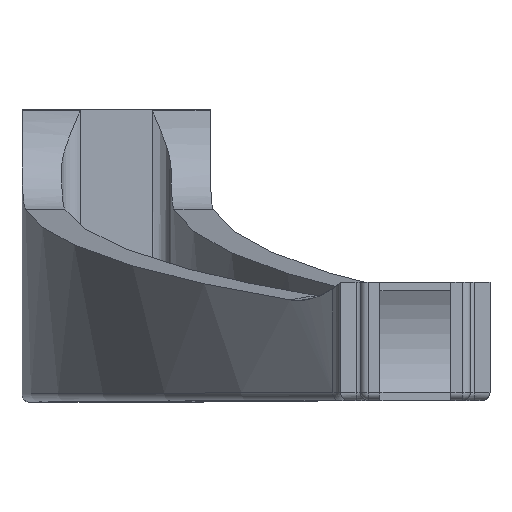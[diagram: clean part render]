
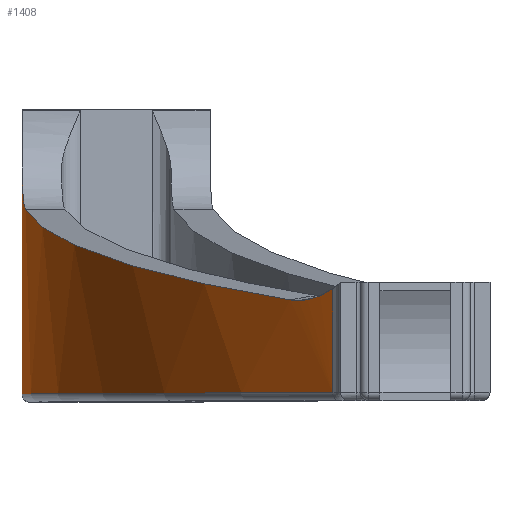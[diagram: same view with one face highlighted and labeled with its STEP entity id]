
A CAD part, top view. The second image highlights one B-rep face of the part: STEP entity #1408.
In plain terms, the highlighted cylindrical face has radius 132.732 mm (diameter 265.464 mm), a partial arc.
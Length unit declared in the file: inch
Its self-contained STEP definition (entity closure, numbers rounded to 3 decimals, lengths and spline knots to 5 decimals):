
#5 = EDGE_CURVE ( 'NONE', #2507, #773, #3169, .T. ) ;
#88 = ORIENTED_EDGE ( 'NONE', *, *, #4184, .T. ) ;
#100 = LINE ( 'NONE', #626, #320 ) ;
#113 = ORIENTED_EDGE ( 'NONE', *, *, #577, .T. ) ;
#313 = ORIENTED_EDGE ( 'NONE', *, *, #5, .T. ) ;
#319 = CARTESIAN_POINT ( 'NONE',  ( -0.46893, 1.08872, 0.28084 ) ) ;
#320 = VECTOR ( 'NONE', #1363, 39.37008 ) ;
#440 = CARTESIAN_POINT ( 'NONE',  ( 1.08534, 0.56, 3.83926 ) ) ;
#577 = EDGE_CURVE ( 'NONE', #939, #2507, #3897, .T. ) ;
#626 = CARTESIAN_POINT ( 'NONE',  ( 1.08534, 0.47244, 3.83926 ) ) ;
#636 = CARTESIAN_POINT ( 'NONE',  ( 4.75421, 0.03937, 0.11811 ) ) ;
#737 = CARTESIAN_POINT ( 'NONE',  ( -0.46858, 1.07892, 0.29191 ) ) ;
#773 = VERTEX_POINT ( 'NONE', #2025 ) ;
#835 = AXIS2_PLACEMENT_3D ( 'NONE', #1667, #4582, #933 ) ;
#914 = B_SPLINE_CURVE_WITH_KNOTS ( 'NONE', 3,
 ( #2790, #1001, #3191, #3941, #2810, #2594, #4436, #2578 ),
 .UNSPECIFIED., .F., .F.,
 ( 4, 2, 2, 4 ),
 ( 0.0016, 0.00361, 0.00562, 0.00965 ),
 .UNSPECIFIED. ) ;
#933 = DIRECTION ( 'NONE',  ( 0., 0., -1. ) ) ;
#939 = VERTEX_POINT ( 'NONE', #3833 ) ;
#947 = CARTESIAN_POINT ( 'NONE',  ( -0.4644, 1.01299, 0.38993 ) ) ;
#990 = CARTESIAN_POINT ( 'NONE',  ( -0.46129, 0.98913, 0.44419 ) ) ;
#1001 = CARTESIAN_POINT ( 'NONE',  ( 1.06844, 0.54839, 3.8226 ) ) ;
#1009 = CARTESIAN_POINT ( 'NONE',  ( 0.09851, 0.63279, 2.75794 ) ) ;
#1019 = EDGE_CURVE ( 'NONE', #4273, #939, #4474, .T. ) ;
#1024 = CARTESIAN_POINT ( 'NONE',  ( 0.87256, 0.50444, 3.61673 ) ) ;
#1035 = CARTESIAN_POINT ( 'NONE',  ( -0.4705, 1.15409, 0.22007 ) ) ;
#1038 = CARTESIAN_POINT ( 'NONE',  ( -0.35978, 0.79142, 1.6965 ) ) ;
#1101 = CARTESIAN_POINT ( 'NONE',  ( -0.47146, 1.42822, 0.11811 ) ) ;
#1363 = DIRECTION ( 'NONE',  ( 0., 1., 0. ) ) ;
#1401 = CARTESIAN_POINT ( 'NONE',  ( -0.47079, 1.17808, 0.20286 ) ) ;
#1408 = ADVANCED_FACE ( 'NONE', ( #2278 ), #3141, .T. ) ;
#1525 = EDGE_CURVE ( 'NONE', #3564, #4273, #1992, .T. ) ;
#1661 = CARTESIAN_POINT ( 'NONE',  ( -0.46634, 1.03456, 0.35078 ) ) ;
#1667 = CARTESIAN_POINT ( 'NONE',  ( 4.75421, 0.47244, 0.11811 ) ) ;
#1728 = CARTESIAN_POINT ( 'NONE',  ( -0.45406, 0.96363, 0.54421 ) ) ;
#1788 = DIRECTION ( 'NONE',  ( 0., -1., 0. ) ) ;
#1818 = CARTESIAN_POINT ( 'NONE',  ( -0.47117, 1.22926, 0.17332 ) ) ;
#1992 =( BOUNDED_CURVE ( )  B_SPLINE_CURVE ( 3, ( #1024, #1009, #1038, #2900 ),
 .UNSPECIFIED., .F., .F. ) 
 B_SPLINE_CURVE_WITH_KNOTS ( ( 4, 4 ),
 ( 0.83725, 1.48917 ),
 .UNSPECIFIED. ) 
 CURVE ( )  GEOMETRIC_REPRESENTATION_ITEM ( )  RATIONAL_B_SPLINE_CURVE ( ( 1., 0.965, 0.965, 1. ) ) 
 REPRESENTATION_ITEM ( '' )  );
#2024 = CARTESIAN_POINT ( 'NONE',  ( -0.46213, 0.99446, 0.43044 ) ) ;
#2025 = CARTESIAN_POINT ( 'NONE',  ( 1.08534, 0.03937, 3.83926 ) ) ;
#2278 = FACE_OUTER_BOUND ( 'NONE', #4382, .T. ) ;
#2340 = EDGE_CURVE ( 'NONE', #3853, #3564, #914, .T. ) ;
#2507 = VERTEX_POINT ( 'NONE', #4231 ) ;
#2578 = CARTESIAN_POINT ( 'NONE',  ( 0.87256, 0.50444, 3.61673 ) ) ;
#2594 = CARTESIAN_POINT ( 'NONE',  ( 0.94386, 0.5006, 3.69464 ) ) ;
#2614 = CARTESIAN_POINT ( 'NONE',  ( -0.47129, 1.25613, 0.16049 ) ) ;
#2790 = CARTESIAN_POINT ( 'NONE',  ( 1.08534, 0.56, 3.83926 ) ) ;
#2810 = CARTESIAN_POINT ( 'NONE',  ( 0.99774, 0.51484, 3.75091 ) ) ;
#2880 = CARTESIAN_POINT ( 'NONE',  ( -0.46955, 1.10938, 0.25952 ) ) ;
#2900 = CARTESIAN_POINT ( 'NONE',  ( -0.45406, 0.96363, 0.54421 ) ) ;
#2947 = CARTESIAN_POINT ( 'NONE',  ( -0.47142, 1.31168, 0.13912 ) ) ;
#2965 = AXIS2_PLACEMENT_3D ( 'NONE', #636, #4653, #3953 ) ;
#3141 = CYLINDRICAL_SURFACE ( 'NONE', #835, 5.22566 ) ;
#3145 = CARTESIAN_POINT ( 'NONE',  ( -0.45856, 0.975, 0.48603 ) ) ;
#3162 = CARTESIAN_POINT ( 'NONE',  ( -0.45406, 0.96363, 0.54421 ) ) ;
#3169 = CIRCLE ( 'NONE', #2965, 5.22566 ) ;
#3191 = CARTESIAN_POINT ( 'NONE',  ( 1.05117, 0.53832, 3.80535 ) ) ;
#3243 = CARTESIAN_POINT ( 'NONE',  ( -0.46982, 1.1203, 0.24921 ) ) ;
#3269 = ORIENTED_EDGE ( 'NONE', *, *, #1019, .T. ) ;
#3311 = CARTESIAN_POINT ( 'NONE',  ( -0.47146, 1.39832, 0.12082 ) ) ;
#3564 = VERTEX_POINT ( 'NONE', #4599 ) ;
#3662 = VECTOR ( 'NONE', #1788, 39.37008 ) ;
#3672 = CARTESIAN_POINT ( 'NONE',  ( -0.47146, 1.45814, 0.11811 ) ) ;
#3681 = CARTESIAN_POINT ( 'NONE',  ( -0.47146, 0.47244, 0.11811 ) ) ;
#3833 = CARTESIAN_POINT ( 'NONE',  ( -0.47146, 1.45814, 0.11811 ) ) ;
#3853 = VERTEX_POINT ( 'NONE', #440 ) ;
#3897 = LINE ( 'NONE', #3681, #3662 ) ;
#3941 = CARTESIAN_POINT ( 'NONE',  ( 1.01587, 0.52154, 3.76955 ) ) ;
#3953 = DIRECTION ( 'NONE',  ( 0., 0., -1. ) ) ;
#4057 = CARTESIAN_POINT ( 'NONE',  ( -0.47109, 1.2162, 0.1803 ) ) ;
#4184 = EDGE_CURVE ( 'NONE', #773, #3853, #100, .T. ) ;
#4220 = ORIENTED_EDGE ( 'NONE', *, *, #1525, .T. ) ;
#4231 = CARTESIAN_POINT ( 'NONE',  ( -0.47146, 0.03937, 0.11811 ) ) ;
#4273 = VERTEX_POINT ( 'NONE', #3162 ) ;
#4276 = CARTESIAN_POINT ( 'NONE',  ( -0.45647, 0.96804, 0.51471 ) ) ;
#4382 = EDGE_LOOP ( 'NONE', ( #113, #313, #88, #4505, #4220, #3269 ) ) ;
#4391 = CARTESIAN_POINT ( 'NONE',  ( -0.47133, 1.26995, 0.15464 ) ) ;
#4436 = CARTESIAN_POINT ( 'NONE',  ( 0.90812, 0.49854, 3.65619 ) ) ;
#4458 = CARTESIAN_POINT ( 'NONE',  ( -0.47144, 1.34014, 0.13134 ) ) ;
#4474 = B_SPLINE_CURVE_WITH_KNOTS ( 'NONE', 3,
 ( #1728, #4276, #3145, #990, #2024, #4594, #947, #1661, #4613, #737, #319, #2880, #3243, #1035, #1401, #4057, #1818, #2614, #4391, #2947, #4458, #3311, #1101, #3672 ),
 .UNSPECIFIED., .F., .F.,
 ( 4, 2, 2, 2, 2, 2, 2, 2, 2, 2, 2, 4 ),
 ( 0., 0.00225, 0.00337, 0.0045, 0.00674, 0.00787, 0.00899, 0.01124, 0.01236, 0.01349, 0.01573, 0.01798 ),
 .UNSPECIFIED. ) ;
#4505 = ORIENTED_EDGE ( 'NONE', *, *, #2340, .T. ) ;
#4582 = DIRECTION ( 'NONE',  ( 0., -1., 0. ) ) ;
#4594 = CARTESIAN_POINT ( 'NONE',  ( -0.46368, 1.00637, 0.40334 ) ) ;
#4599 = CARTESIAN_POINT ( 'NONE',  ( 0.87256, 0.50444, 3.61673 ) ) ;
#4613 = CARTESIAN_POINT ( 'NONE',  ( -0.46736, 1.05107, 0.32629 ) ) ;
#4653 = DIRECTION ( 'NONE',  ( 0., 1., 0. ) ) ;
